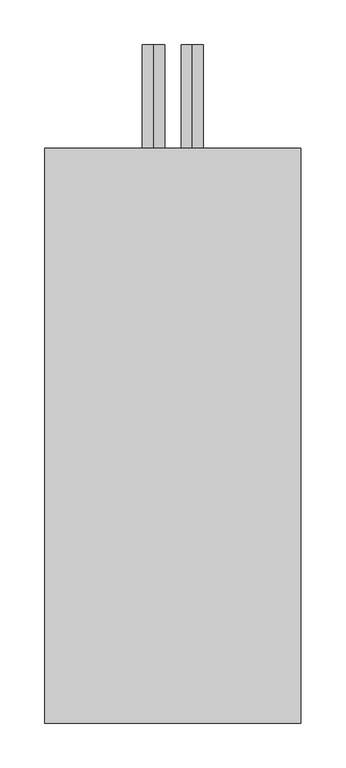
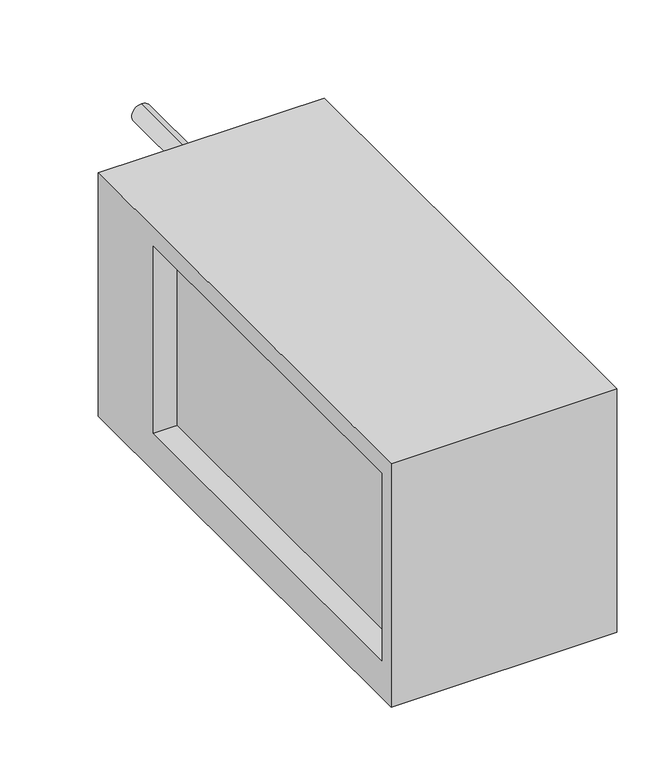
"""IFC4 building model written with IfcOpenShell, lengths in millimetres: proxy geometry, СВ_ВоздухоохладительВодяной_КанальныйПрямоугольный_200-1000_SPC-W : SPC-W-500x250-L."""

from ifc_helpers import new_model, si_unit, point, frame, frame_2d, origin, place, context, project, spatial, polyline, circle_curve, trimmed, segment, composite_curve, outline, extrude, source, transform, mapped, element, save


def mechanical_equipment_3c6b7f57(model_context):
    return source(origin(), model_context, "Body", "SweptSolid", [
        extrude(outline(polyline([(-270.0, -175.0), (-270.0, 150.0), (370.0, 150.0), (370.0, -175.0), (-270.0, -175.0)]), holes=[polyline([(-250.0, 125.0), (-250.0, -125.0), (250.0, -125.0), (250.0, 125.0), (-250.0, 125.0)])]), frame((-142.5, 0.0, 0.0), z_axis=(1.0, 0.0, 0.0), x_axis=(0.0, 1.0, 0.0)), (0.0, 0.0, 1.0), 285.0),
        extrude(outline(composite_curve([segment(trimmed(circle_curve(frame_2d((-117.5, 21.5)), 12.5), [point((-130.0, 21.5))], [point((-105.0, 21.5))], False, "CARTESIAN"), True, "CONTINUOUS"), segment(trimmed(circle_curve(frame_2d((-117.5, 21.5)), 12.5), [point((-105.0, 21.5))], [point((-130.0, 21.5))], False, "CARTESIAN"), True, "CONTINUOUS")], self_intersect=False)), frame((0.0, 370.0, 0.0), z_axis=(0.0, 1.0, 0.0), x_axis=(0.0, 0.0, 1.0)), (0.0, 0.0, 1.0), 115.0),
        extrude(outline(composite_curve([segment(trimmed(circle_curve(frame_2d((117.5, -21.5)), 12.5), [point((105.0, -21.5))], [point((130.0, -21.5))], False, "CARTESIAN"), True, "CONTINUOUS"), segment(trimmed(circle_curve(frame_2d((117.5, -21.5)), 12.5), [point((130.0, -21.5))], [point((105.0, -21.5))], False, "CARTESIAN"), True, "CONTINUOUS")], self_intersect=False)), frame((0.0, 370.0, 0.0), z_axis=(0.0, 1.0, 0.0), x_axis=(0.0, 0.0, 1.0)), (0.0, 0.0, 1.0), 115.0),
        extrude(outline(composite_curve([segment(trimmed(circle_curve(frame_2d((0.0, 330.0)), 11.0), [point((-11.0, 330.0))], [point((11.0, 330.0))], False, "CARTESIAN"), True, "CONTINUOUS"), segment(trimmed(circle_curve(frame_2d((0.0, 330.0)), 11.0), [point((11.0, 330.0))], [point((-11.0, 330.0))], False, "CARTESIAN"), True, "CONTINUOUS")], self_intersect=False)), frame((0.0, 0.0, -195.0), z_axis=(0.0, 0.0, 1.0), x_axis=(1.0, 0.0, 0.0)), (0.0, 0.0, 1.0), 20.0),
        extrude(outline(polyline([(112.5, 250.0), (112.5, -250.0), (-112.5, -250.0), (-112.5, 250.0), (112.5, 250.0)])), frame((0.0, 0.0, -125.0), z_axis=(0.0, 0.0, 1.0), x_axis=(1.0, 0.0, 0.0)), (0.0, 0.0, 1.0), 250.0),
    ])


if __name__ == "__main__":
    model = new_model("IFC4")
    model_context = context("Model", 3, world=origin())
    ifc_project = project(units=[si_unit("LENGTHUNIT", "METRE", prefix="MILLI")], contexts=[model_context])
    site = spatial("IfcSite", under=ifc_project)
    building = spatial("IfcBuilding", under=site)
    placement = place(None, origin())
    mechanical_equipment_shape = mechanical_equipment_3c6b7f57(model_context)
    element("IfcBuildingElementProxy", 1, Name="СВ_ВоздухоохладительВодяной_КанальныйПрямоугольный_200-1000_SPC-W : SPC-W-500x250-L", ObjectType="СВ_ВоздухоохладительВодяной_КанальныйПрямоугольный_200-1000_SPC-W : SPC-W-500x250-L", at=placement, inside=building, context=model_context, shape_type="MappedRepresentation", body=[
        mapped(mechanical_equipment_shape, transform((0.0, 0.0, 0.0), x_axis=(1.0, 0.0, 0.0), y_axis=(0.0, 1.0, 0.0), z_axis=(0.0, 0.0, 1.0))),
    ])
    save(model, "model.ifc")
